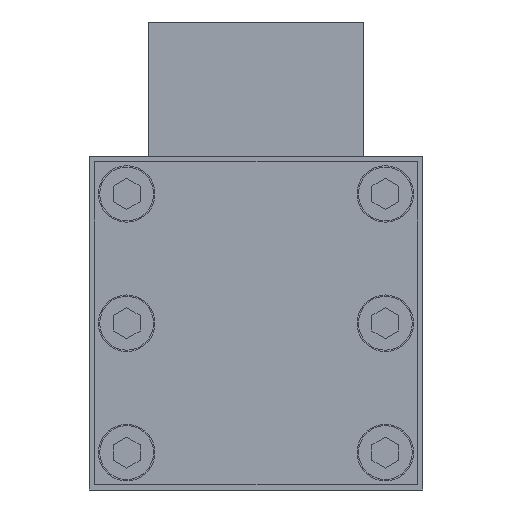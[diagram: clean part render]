
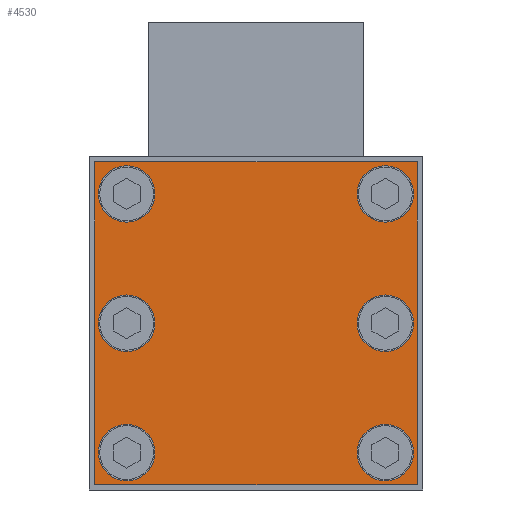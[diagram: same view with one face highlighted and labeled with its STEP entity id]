
A CAD part, left-side view. The second image highlights one B-rep face of the part: STEP entity #4530.
In plain terms, the highlighted planar face has unit normal (-1, 0, 0).
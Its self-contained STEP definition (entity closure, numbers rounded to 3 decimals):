
#4530=ADVANCED_FACE('', (#4540,#4550,#4560,#4570,#4580,#4590,#4600), 
#4610, .T.);
#17770=AXIS2_PLACEMENT_3D('Ax2Pl3d', #17780, #17790, #17800);
#17850=AXIS2_PLACEMENT_3D('Ax2Pl3d', #17860, #17870, #17880);
#17930=AXIS2_PLACEMENT_3D('Ax2Pl3d', #17940, #17950, #17960);
#18010=AXIS2_PLACEMENT_3D('Ax2Pl3d', #18020, #18030, #18040);
#18090=AXIS2_PLACEMENT_3D('Ax2Pl3d', #18100, #18110, #18120);
#18170=AXIS2_PLACEMENT_3D('Ax2Pl3d', #18180, #18190, #18200);
#18210=AXIS2_PLACEMENT_3D('Ax2Pl3d', #18220, #18230, #18240);
#17780=CARTESIAN_POINT('HicPkt', (-27.8,55.04,31.));
#31670=CARTESIAN_POINT('', (-27.8,60.29,31.));
#17860=CARTESIAN_POINT('HicPkt', (-27.8,6.96,31.));
#31680=CARTESIAN_POINT('', (-27.8,12.21,31.));
#17940=CARTESIAN_POINT('HicPkt', (-27.8,55.04,55.04));
#31690=CARTESIAN_POINT('', (-27.8,49.79,55.04));
#18020=CARTESIAN_POINT('HicPkt', (-27.8,55.04,6.96));
#31700=CARTESIAN_POINT('', (-27.8,60.29,6.96));
#18100=CARTESIAN_POINT('HicPkt', (-27.8,6.96,6.96));
#31710=CARTESIAN_POINT('', (-27.8,12.21,6.96));
#18180=CARTESIAN_POINT('HicPkt', (-27.8,6.96,55.04));
#31720=CARTESIAN_POINT('', (-27.8,12.21,55.04));
#18220=CARTESIAN_POINT('HicPkt', (-27.8,61.,1.));
#31730=CARTESIAN_POINT('', (-27.8,1.,1.));
#31740=CARTESIAN_POINT('', (-27.8,61.,1.));
#31750=CARTESIAN_POINT('', (-27.8,1.,1.));
#31760=CARTESIAN_POINT('', (-27.8,1.,61.));
#31770=CARTESIAN_POINT('', (-27.8,1.,61.));
#31780=CARTESIAN_POINT('', (-27.8,61.,61.));
#31790=CARTESIAN_POINT('', (-27.8,61.,61.));
#31800=CARTESIAN_POINT('', (-27.8,61.,1.));
#36280=CIRCLE('Circle', #17770, 5.25);
#36290=CIRCLE('Circle', #17850, 5.25);
#36300=CIRCLE('Circle', #17930, 5.25);
#36310=CIRCLE('Circle', #18010, 5.25);
#36320=CIRCLE('Circle', #18090, 5.25);
#36330=CIRCLE('Circle', #18170, 5.25);
#17790=DIRECTION('Axis', (-1.,0.,0.)
);
#17800=DIRECTION('RefDirection', (0.,
0.,-1.));
#17870=DIRECTION('Axis', (-1.,0.,0.)
);
#17880=DIRECTION('RefDirection', (0.,
0.,-1.));
#17950=DIRECTION('Axis', (-1.,0.,0.)
);
#17960=DIRECTION('RefDirection', (0.,
0.,-1.));
#18030=DIRECTION('Axis', (-1.,0.,0.)
);
#18040=DIRECTION('RefDirection', (0.,
0.,-1.));
#18110=DIRECTION('Axis', (-1.,0.,0.)
);
#18120=DIRECTION('RefDirection', (0.,
0.,-1.));
#18190=DIRECTION('Axis', (-1.,0.,0.)
);
#18200=DIRECTION('RefDirection', (0.,
0.,-1.));
#18230=DIRECTION('Axis', (-1.,0.,0.)
);
#18240=DIRECTION('RefDirection', (0.,
0.,-1.));
#55960=DIRECTION('', (0.,-1.,0.));
#55970=DIRECTION('', (0.,0.,1.));
#55980=DIRECTION('', (0.,1.,0.));
#55990=DIRECTION('', (0.,0.,-1.));
#62300=EDGE_CURVE('', #62310, #62310, #36280, .T.);
#62320=EDGE_CURVE('', #62330, #62330, #36290, .T.);
#62340=EDGE_CURVE('', #62350, #62350, #36300, .T.);
#62360=EDGE_CURVE('', #62370, #62370, #36310, .T.);
#62380=EDGE_CURVE('', #62390, #62390, #36320, .T.);
#62400=EDGE_CURVE('', #62410, #62410, #36330, .T.);
#62420=EDGE_CURVE('', #62430, #62440, #62450, .T.);
#62460=EDGE_CURVE('', #62440, #62470, #62480, .T.);
#62490=EDGE_CURVE('', #62470, #62500, #62510, .T.);
#62520=EDGE_CURVE('', #62500, #62430, #62530, .T.);
#74440=EDGE_LOOP('Edge_loop', (#74450,#74460,#74470,#74480));
#74490=EDGE_LOOP('Edge_loop', (#74500));
#74510=EDGE_LOOP('Edge_loop', (#74520));
#74530=EDGE_LOOP('Edge_loop', (#74540));
#74550=EDGE_LOOP('Edge_loop', (#74560));
#74570=EDGE_LOOP('Edge_loop', (#74580));
#74590=EDGE_LOOP('Edge_loop', (#74600));
#4550=FACE_BOUND('', #74490, .T.);
#4560=FACE_BOUND('', #74510, .T.);
#4570=FACE_BOUND('', #74530, .T.);
#4580=FACE_BOUND('', #74550, .T.);
#4590=FACE_BOUND('', #74570, .T.);
#4600=FACE_BOUND('', #74590, .T.);
#4540=FACE_OUTER_BOUND('Face_outer_bound', #74440, .T.);
#62450=LINE('Line', #31730, #91070);
#62480=LINE('Line', #31760, #91080);
#62510=LINE('Line', #31780, #91090);
#62530=LINE('Line', #31800, #91100);
#74450=ORIENTED_EDGE('', *, *, #62420, .T.);
#74460=ORIENTED_EDGE('', *, *, #62460, .T.);
#74470=ORIENTED_EDGE('', *, *, #62490, .T.);
#74480=ORIENTED_EDGE('', *, *, #62520, .T.);
#74500=ORIENTED_EDGE('', *, *, #62340, .F.);
#74520=ORIENTED_EDGE('', *, *, #62300, .F.);
#74540=ORIENTED_EDGE('', *, *, #62360, .F.);
#74560=ORIENTED_EDGE('', *, *, #62400, .F.);
#74580=ORIENTED_EDGE('', *, *, #62320, .F.);
#74600=ORIENTED_EDGE('', *, *, #62380, .F.);
#4610=PLANE('Plane', #18210);
#91070=VECTOR('', #55960, 60.);
#91080=VECTOR('', #55970, 60.);
#91090=VECTOR('', #55980, 60.);
#91100=VECTOR('', #55990, 60.);
#62310=VERTEX_POINT('', #31670);
#62330=VERTEX_POINT('', #31680);
#62350=VERTEX_POINT('', #31690);
#62370=VERTEX_POINT('', #31700);
#62390=VERTEX_POINT('', #31710);
#62410=VERTEX_POINT('', #31720);
#62430=VERTEX_POINT('', #31740);
#62440=VERTEX_POINT('', #31750);
#62470=VERTEX_POINT('', #31770);
#62500=VERTEX_POINT('', #31790);
